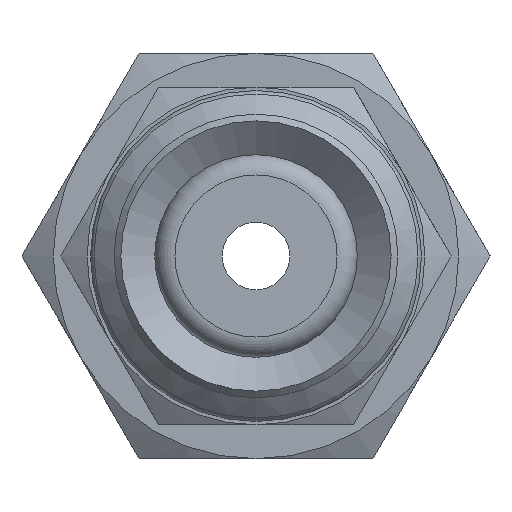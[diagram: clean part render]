
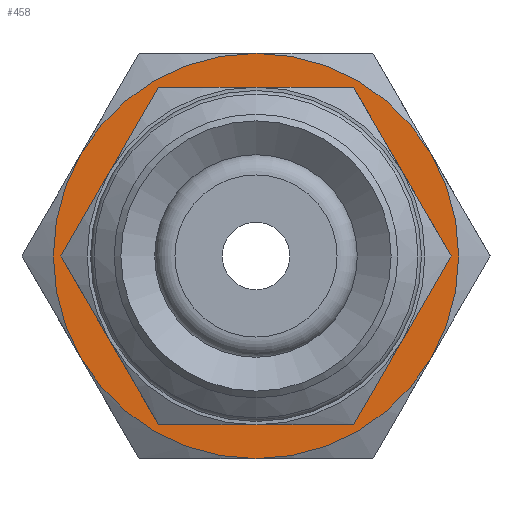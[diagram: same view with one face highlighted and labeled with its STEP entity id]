
A CAD part, front view. The second image highlights one B-rep face of the part: STEP entity #458.
In plain terms, the highlighted planar face has unit normal (0, -1, 0) as drawn and (-1, 0, 0) by its records, which use the part's own axes.
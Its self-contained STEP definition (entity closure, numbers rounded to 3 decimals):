
#458=ADVANCED_FACE('',(#638,#639),#640,.F.);
#638=FACE_BOUND('',#878,.T.);
#639=FACE_OUTER_BOUND('',#879,.T.);
#640=PLANE('',#880);
#878=EDGE_LOOP('',(#1388));
#879=EDGE_LOOP('',(#1389,#1390,#1391,#1392,#1393,#1394));
#880=AXIS2_PLACEMENT_3D('',#1395,#1396,#1397);
#1388=ORIENTED_EDGE('',*,*,#1741,.T.);
#1389=ORIENTED_EDGE('',*,*,#1704,.F.);
#1390=ORIENTED_EDGE('',*,*,#1721,.F.);
#1391=ORIENTED_EDGE('',*,*,#1733,.F.);
#1392=ORIENTED_EDGE('',*,*,#1742,.F.);
#1393=ORIENTED_EDGE('',*,*,#1740,.F.);
#1394=ORIENTED_EDGE('',*,*,#1725,.F.);
#1395=CARTESIAN_POINT('',(0.,0.0,0.0));
#1396=DIRECTION('',(1.0,0.0,0.0));
#1397=DIRECTION('',(0.0,1.0,0.0));
#1704=EDGE_CURVE('',#1939,#1941,#1942,.T.);
#1721=EDGE_CURVE('',#1968,#1939,#1971,.T.);
#1725=EDGE_CURVE('',#1941,#1977,#1978,.T.);
#1733=EDGE_CURVE('',#1990,#1968,#1991,.T.);
#1740=EDGE_CURVE('',#1977,#1998,#2000,.T.);
#1741=EDGE_CURVE('',#2001,#2001,#2002,.T.);
#1742=EDGE_CURVE('',#1998,#1990,#2003,.T.);
#1939=VERTEX_POINT('',#2317);
#1941=VERTEX_POINT('',#2329);
#1942=CIRCLE('',#2330,6.0);
#1968=VERTEX_POINT('',#2440);
#1971=CIRCLE('',#2463,6.0);
#1977=VERTEX_POINT('',#2479);
#1978=CIRCLE('',#2480,6.0);
#1990=VERTEX_POINT('',#2542);
#1991=CIRCLE('',#2543,6.0);
#1998=VERTEX_POINT('',#2581);
#2000=CIRCLE('',#2593,6.0);
#2001=VERTEX_POINT('',#2594);
#2002=CIRCLE('',#2595,4.0);
#2003=CIRCLE('',#2596,6.0);
#2317=CARTESIAN_POINT('',(0.,5.196,-3.0));
#2329=CARTESIAN_POINT('',(0.,5.196,3.0));
#2330=AXIS2_PLACEMENT_3D('',#2853,#2854,#2855);
#2440=CARTESIAN_POINT('',(0.,0.0,-6.0));
#2463=AXIS2_PLACEMENT_3D('',#2866,#2867,#2868);
#2479=CARTESIAN_POINT('',(0.,0.0,6.0));
#2480=AXIS2_PLACEMENT_3D('',#2875,#2876,#2877);
#2542=CARTESIAN_POINT('',(0.,-5.196,-3.0));
#2543=AXIS2_PLACEMENT_3D('',#2884,#2885,#2886);
#2581=CARTESIAN_POINT('',(0.,-5.196,3.0));
#2593=AXIS2_PLACEMENT_3D('',#2891,#2892,#2893);
#2594=CARTESIAN_POINT('',(0.,0.0,-4.0));
#2595=AXIS2_PLACEMENT_3D('',#2894,#2895,#2896);
#2596=AXIS2_PLACEMENT_3D('',#2897,#2898,#2899);
#2853=CARTESIAN_POINT('',(0.,0.0,0.0));
#2854=DIRECTION('',(1.0,0.0,0.0));
#2855=DIRECTION('',(0.0,0.0,-1.0));
#2866=CARTESIAN_POINT('',(0.,0.0,0.0));
#2867=DIRECTION('',(1.0,0.0,0.0));
#2868=DIRECTION('',(0.0,0.0,-1.0));
#2875=CARTESIAN_POINT('',(0.,0.0,0.0));
#2876=DIRECTION('',(1.0,0.0,0.0));
#2877=DIRECTION('',(0.0,0.0,-1.0));
#2884=CARTESIAN_POINT('',(0.,0.0,0.0));
#2885=DIRECTION('',(1.0,0.0,0.0));
#2886=DIRECTION('',(0.0,0.0,-1.0));
#2891=CARTESIAN_POINT('',(0.,0.0,0.0));
#2892=DIRECTION('',(1.0,0.0,0.0));
#2893=DIRECTION('',(0.0,0.0,-1.0));
#2894=CARTESIAN_POINT('',(0.,0.0,0.0));
#2895=DIRECTION('',(1.0,0.0,0.0));
#2896=DIRECTION('',(0.0,0.0,-1.0));
#2897=CARTESIAN_POINT('',(0.,0.0,0.0));
#2898=DIRECTION('',(1.0,0.0,0.0));
#2899=DIRECTION('',(0.0,0.0,-1.0));
